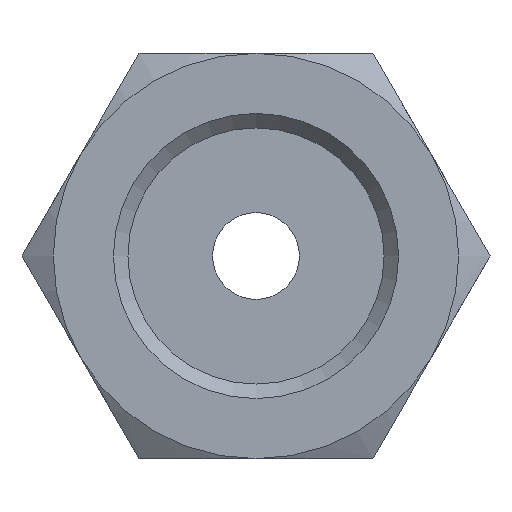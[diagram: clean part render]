
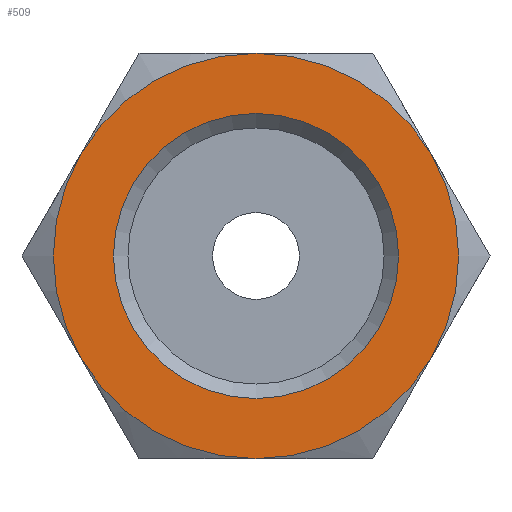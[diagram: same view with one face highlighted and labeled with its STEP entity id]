
A CAD part, front view. The second image highlights one B-rep face of the part: STEP entity #509.
In plain terms, the highlighted planar face has unit normal (0, -1, 0).
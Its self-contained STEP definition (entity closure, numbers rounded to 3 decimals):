
#47=FACE_BOUND('',#103,.T.);
#54=PLANE('',#566);
#68=FACE_OUTER_BOUND('',#102,.T.);
#102=EDGE_LOOP('',(#344,#345,#346,#347,#348,#349));
#103=EDGE_LOOP('',(#350));
#172=CIRCLE('',#565,4.924);
#173=CIRCLE('',#567,7.);
#174=CIRCLE('',#568,7.);
#175=CIRCLE('',#569,7.);
#176=CIRCLE('',#570,7.);
#177=CIRCLE('',#571,7.);
#178=CIRCLE('',#572,7.);
#212=VERTEX_POINT('',#806);
#213=VERTEX_POINT('',#810);
#214=VERTEX_POINT('',#811);
#215=VERTEX_POINT('',#813);
#216=VERTEX_POINT('',#815);
#217=VERTEX_POINT('',#817);
#218=VERTEX_POINT('',#819);
#264=EDGE_CURVE('',#212,#212,#172,.T.);
#265=EDGE_CURVE('',#213,#214,#173,.T.);
#266=EDGE_CURVE('',#214,#215,#174,.T.);
#267=EDGE_CURVE('',#215,#216,#175,.T.);
#268=EDGE_CURVE('',#216,#217,#176,.T.);
#269=EDGE_CURVE('',#217,#218,#177,.T.);
#270=EDGE_CURVE('',#218,#213,#178,.T.);
#344=ORIENTED_EDGE('',*,*,#265,.T.);
#345=ORIENTED_EDGE('',*,*,#266,.T.);
#346=ORIENTED_EDGE('',*,*,#267,.T.);
#347=ORIENTED_EDGE('',*,*,#268,.T.);
#348=ORIENTED_EDGE('',*,*,#269,.T.);
#349=ORIENTED_EDGE('',*,*,#270,.T.);
#350=ORIENTED_EDGE('',*,*,#264,.F.);
#509=ADVANCED_FACE('',(#68,#47),#54,.T.);
#565=AXIS2_PLACEMENT_3D('',#808,#645,#646);
#566=AXIS2_PLACEMENT_3D('',#809,#647,#648);
#567=AXIS2_PLACEMENT_3D('',#812,#649,#650);
#568=AXIS2_PLACEMENT_3D('',#814,#651,#652);
#569=AXIS2_PLACEMENT_3D('',#816,#653,#654);
#570=AXIS2_PLACEMENT_3D('',#818,#655,#656);
#571=AXIS2_PLACEMENT_3D('',#820,#657,#658);
#572=AXIS2_PLACEMENT_3D('',#821,#659,#660);
#645=DIRECTION('center_axis',(0.,-1.,0.));
#646=DIRECTION('ref_axis',(-1.,0.,0.));
#647=DIRECTION('center_axis',(0.,-1.,0.));
#648=DIRECTION('ref_axis',(0.,0.,-1.));
#649=DIRECTION('center_axis',(0.,-1.,0.));
#650=DIRECTION('ref_axis',(1.,0.,0.));
#651=DIRECTION('center_axis',(0.,-1.,0.));
#652=DIRECTION('ref_axis',(1.,0.,0.));
#653=DIRECTION('center_axis',(0.,-1.,0.));
#654=DIRECTION('ref_axis',(1.,0.,0.));
#655=DIRECTION('center_axis',(0.,-1.,0.));
#656=DIRECTION('ref_axis',(1.,0.,0.));
#657=DIRECTION('center_axis',(0.,-1.,0.));
#658=DIRECTION('ref_axis',(1.,0.,0.));
#659=DIRECTION('center_axis',(0.,-1.,0.));
#660=DIRECTION('ref_axis',(1.,0.,0.));
#806=CARTESIAN_POINT('',(4.924,0.,0.));
#808=CARTESIAN_POINT('Origin',(0.,0.,0.));
#809=CARTESIAN_POINT('Origin',(4.424,0.,0.));
#810=CARTESIAN_POINT('',(6.062,0.,-3.5));
#811=CARTESIAN_POINT('',(6.062,0.,3.5));
#812=CARTESIAN_POINT('Origin',(0.,0.,0.));
#813=CARTESIAN_POINT('',(0.,0.,7.));
#814=CARTESIAN_POINT('Origin',(0.,0.,0.));
#815=CARTESIAN_POINT('',(-6.062,0.,3.5));
#816=CARTESIAN_POINT('Origin',(0.,0.,0.));
#817=CARTESIAN_POINT('',(-6.062,0.,-3.5));
#818=CARTESIAN_POINT('Origin',(0.,0.,0.));
#819=CARTESIAN_POINT('',(0.,0.,-7.));
#820=CARTESIAN_POINT('Origin',(0.,0.,0.));
#821=CARTESIAN_POINT('Origin',(0.,0.,0.));
